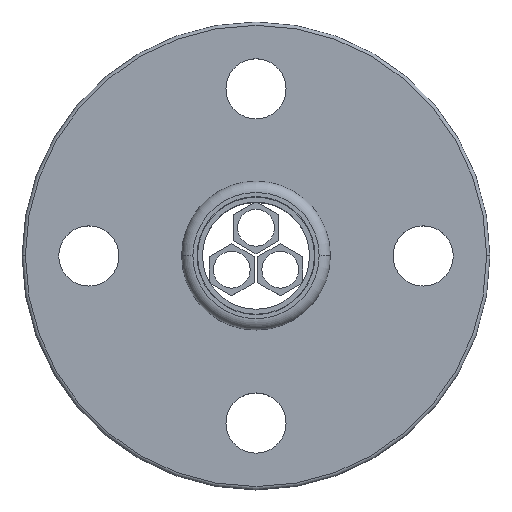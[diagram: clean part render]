
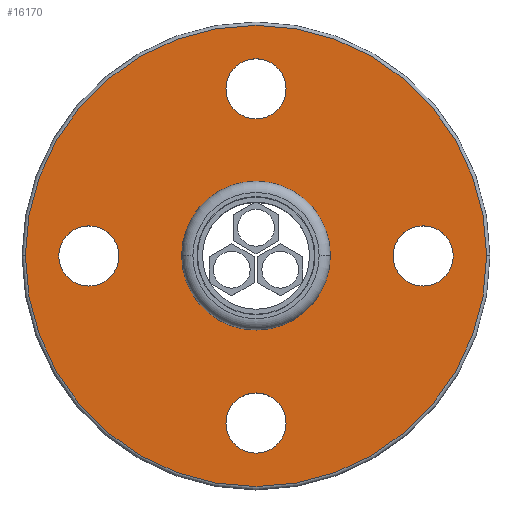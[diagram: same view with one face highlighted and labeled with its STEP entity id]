
A CAD part, top view. The second image highlights one B-rep face of the part: STEP entity #16170.
In plain terms, the highlighted planar face has unit normal (0, 0, 1) as drawn and (0, 1, 0) by its records, which use the part's own axes.
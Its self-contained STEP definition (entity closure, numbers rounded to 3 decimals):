
#14230=CARTESIAN_POINT('',(-306.106,158.522,
0.));
#14240=VERTEX_POINT('',#14230);
#14320=CARTESIAN_POINT('',(-270.917,158.522,0.));
#14330=VERTEX_POINT('',#14320);
#14360=CARTESIAN_POINT('',(-288.511,158.522,0.));
#14370=DIRECTION('',(0.,1.,0.));
#14380=DIRECTION('',(1.,0.,0.));
#14390=AXIS2_PLACEMENT_3D('',#14360,#14370,#14380);
#14400=CIRCLE('',#14390,17.594);
#14410=EDGE_CURVE('',#14240,#14330,#14400,.T.);
#15320=CARTESIAN_POINT('',(-336.569,158.522,52.201)
);
#15330=DIRECTION('',(-0.,1.,0.));
#15340=DIRECTION('',(1.,0.,0.));
#15350=AXIS2_PLACEMENT_3D('',#15320,#15330,#15340);
#15360=PLANE('',#15350);
#15370=CARTESIAN_POINT('',(-338.511,158.522,
0.));
#15380=DIRECTION('',(0.,1.,0.));
#15390=DIRECTION('',(0.,0.,-1.));
#15400=AXIS2_PLACEMENT_3D('',#15370,#15380,#15390);
#15410=CIRCLE('',#15400,9.);
#15420=CARTESIAN_POINT('',(-338.511,158.522,
-9.));
#15430=VERTEX_POINT('',#15420);
#15440=CARTESIAN_POINT('',(-338.511,158.522,
9.));
#15450=VERTEX_POINT('',#15440);
#15460=EDGE_CURVE('',#15430,#15450,#15410,.T.);
#15470=ORIENTED_EDGE('',*,*,#15460,.F.);
#15480=EDGE_CURVE('',#15450,#15430,#15410,.T.);
#15490=ORIENTED_EDGE('',*,*,#15480,.F.);
#15500=EDGE_LOOP('',(#15490,#15470));
#15510=FACE_BOUND('',#15500,.T.);
#15520=EDGE_CURVE('',#14330,#14240,#14400,.T.);
#15530=ORIENTED_EDGE('',*,*,#15520,.F.);
#15540=ORIENTED_EDGE('',*,*,#14410,.F.);
#15550=EDGE_LOOP('',(#15540,#15530));
#15560=FACE_BOUND('',#15550,.T.);
#15570=CARTESIAN_POINT('',(-288.511,158.522,50.));
#15580=DIRECTION('',(0.,1.,0.));
#15590=DIRECTION('',(-1.,0.,0.));
#15600=AXIS2_PLACEMENT_3D('',#15570,#15580,#15590);
#15610=CIRCLE('',#15600,9.);
#15620=CARTESIAN_POINT('',(-297.511,158.522,50.));
#15630=VERTEX_POINT('',#15620);
#15640=CARTESIAN_POINT('',(-279.511,158.522,50.));
#15650=VERTEX_POINT('',#15640);
#15660=EDGE_CURVE('',#15630,#15650,#15610,.T.);
#15670=ORIENTED_EDGE('',*,*,#15660,.F.);
#15680=EDGE_CURVE('',#15650,#15630,#15610,.T.);
#15690=ORIENTED_EDGE('',*,*,#15680,.F.);
#15700=EDGE_LOOP('',(#15690,#15670));
#15710=FACE_BOUND('',#15700,.T.);
#15720=CARTESIAN_POINT('',(-238.511,158.522,
0.));
#15730=DIRECTION('',(0.,1.,0.));
#15740=DIRECTION('',(0.,0.,1.));
#15750=AXIS2_PLACEMENT_3D('',#15720,#15730,#15740);
#15760=CIRCLE('',#15750,9.);
#15770=CARTESIAN_POINT('',(-238.511,158.522,
9.));
#15780=VERTEX_POINT('',#15770);
#15790=CARTESIAN_POINT('',(-238.511,158.522,
-9.));
#15800=VERTEX_POINT('',#15790);
#15810=EDGE_CURVE('',#15780,#15800,#15760,.T.);
#15820=ORIENTED_EDGE('',*,*,#15810,.F.);
#15830=EDGE_CURVE('',#15800,#15780,#15760,.T.);
#15840=ORIENTED_EDGE('',*,*,#15830,.F.);
#15850=EDGE_LOOP('',(#15840,#15820));
#15860=FACE_BOUND('',#15850,.T.);
#15870=CARTESIAN_POINT('',(-288.511,158.522,-50.));
#15880=DIRECTION('',(0.,1.,0.));
#15890=DIRECTION('',(1.,0.,0.));
#15900=AXIS2_PLACEMENT_3D('',#15870,#15880,#15890);
#15910=CIRCLE('',#15900,9.);
#15920=CARTESIAN_POINT('',(-279.511,158.522,-50.));
#15930=VERTEX_POINT('',#15920);
#15940=CARTESIAN_POINT('',(-297.511,158.522,-50.));
#15950=VERTEX_POINT('',#15940);
#15960=EDGE_CURVE('',#15930,#15950,#15910,.T.);
#15970=ORIENTED_EDGE('',*,*,#15960,.F.);
#15980=EDGE_CURVE('',#15950,#15930,#15910,.T.);
#15990=ORIENTED_EDGE('',*,*,#15980,.F.);
#16000=EDGE_LOOP('',(#15990,#15970));
#16010=FACE_BOUND('',#16000,.T.);
#16020=CARTESIAN_POINT('',(-288.511,158.522,
0.));
#16030=DIRECTION('',(0.,1.,0.));
#16040=DIRECTION('',(1.,0.,0.));
#16050=AXIS2_PLACEMENT_3D('',#16020,#16030,#16040);
#16060=CIRCLE('',#16050,69.);
#16070=CARTESIAN_POINT('',(-219.511,158.522,
0.));
#16080=VERTEX_POINT('',#16070);
#16090=CARTESIAN_POINT('',(-357.511,158.522,
0.));
#16100=VERTEX_POINT('',#16090);
#16110=EDGE_CURVE('',#16080,#16100,#16060,.T.);
#16120=ORIENTED_EDGE('',*,*,#16110,.T.);
#16130=EDGE_CURVE('',#16100,#16080,#16060,.T.);
#16140=ORIENTED_EDGE('',*,*,#16130,.T.);
#16150=EDGE_LOOP('',(#16140,#16120));
#16160=FACE_OUTER_BOUND('',#16150,.T.);
#16170=ADVANCED_FACE('',(#15510,#15560,#15710,#15860,#16010,#16160),
#15360,.T.);
